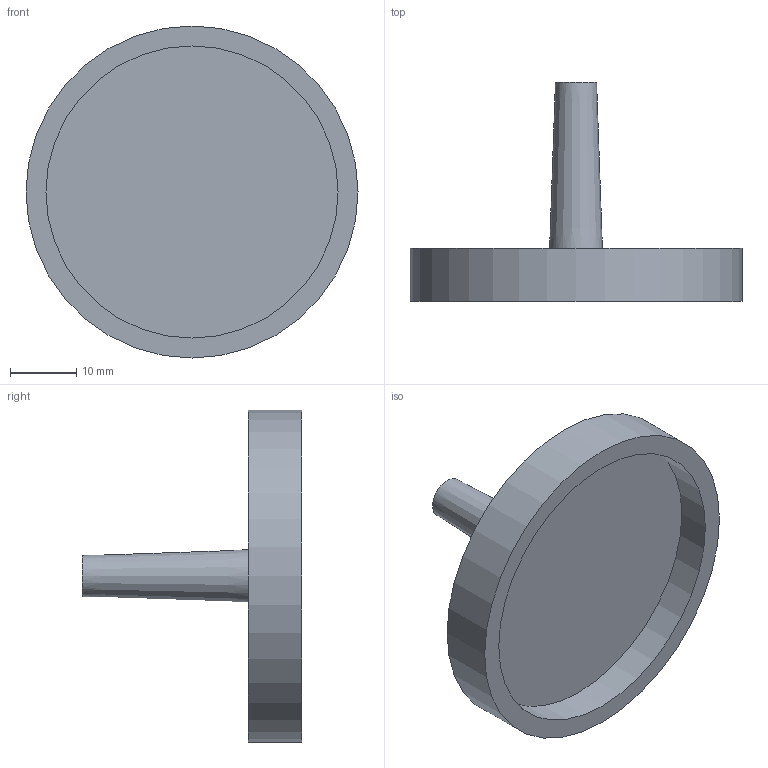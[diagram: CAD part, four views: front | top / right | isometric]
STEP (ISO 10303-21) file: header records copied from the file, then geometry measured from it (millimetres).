
FILE_DESCRIPTION(/* description */ (''),/* implementation_level */ '2;1');
FILE_NAME(/* name */ 'Z:\Geberit\Export\NewStep\361812.stp',/* time_stamp */ '2014-04-01T21:08:16+02:00',/* author */ ('nelson'),/* organization */ (''),/* preprocessor_version */ 'ST-DEVELOPER v15.2',/* originating_system */ 'Autodesk Inventor 2014',/* authorisation */ '');
FILE_SCHEMA (('AUTOMOTIVE_DESIGN { 1 0 10303 214 3 1 1 }'));
Length unit declared in the file: millimetre
Products named in the file (1): 361812
Bounding box: 50 x 33 x 50 mm (x, y, z)
Volume: 9092.6 mm3; surface area: 6411.2 mm2
Topology: 1 solids, 1 shells, 7 faces, 9 edges, 6 vertices
Faces by surface type: plane 4, cylinder 2, cone 1
Full cylindrical faces by diameter (mm): 44 x1, 50 x1
Entity records: 162 total; most frequent: DIRECTION 28, CARTESIAN_POINT 20, AXIS2_PLACEMENT_3D 14, EDGE_LOOP 12, ORIENTED_EDGE 12, STYLED_ITEM 8, ADVANCED_FACE 7, FACE_BOUND 6
